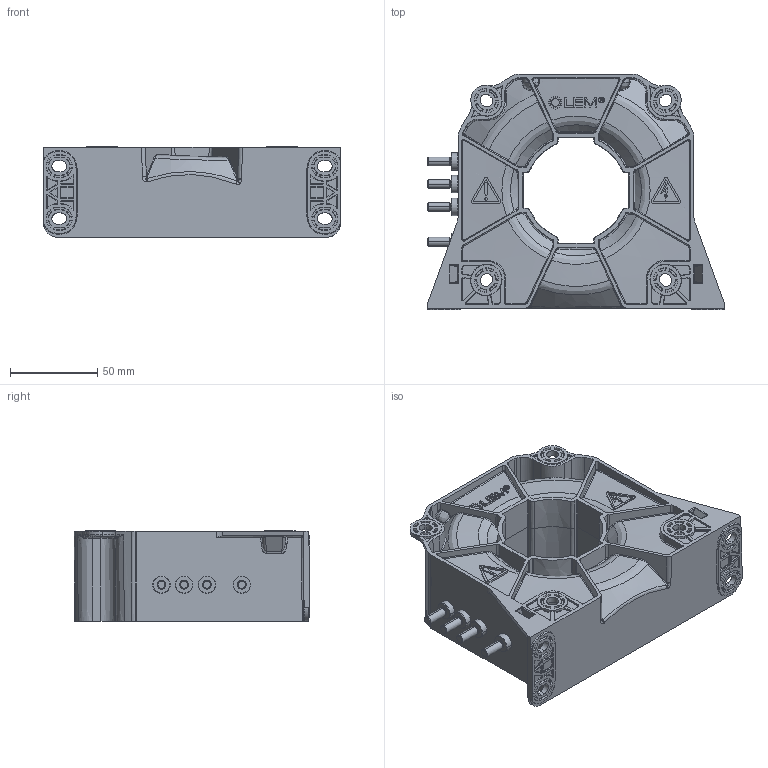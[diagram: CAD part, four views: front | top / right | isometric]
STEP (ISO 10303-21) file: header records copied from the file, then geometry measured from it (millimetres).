
FILE_DESCRIPTION(('Creo Elements/Direct Modeling STEP Export'),'2;1');
FILE_NAME('90.J9.69.028.0_00.stp','2018-03-09T13:44:46',(''),(''),'PTC Creo Elements/Direct Modeling STEP processor for AP214 (Solid Model)','PTC Creo Elements/Direct Modeling 19.0E 27-Jun-2016 (C) Parametric Technology GmbH','');
FILE_SCHEMA(('AUTOMOTIVE_DESIGN { 1 0 10303 214 1 1 1 1 }'));
Products named in the file (4): HOUSING; HALL_ELEMENT.PRT; 90_J9_69_028_0_00_STP.ASM; 90_J9_69_028_00_0
Assembly tree (3 placements, depth 3):
  90_J9_69_028_00_0
    90_J9_69_028_0_00_STP.ASM
      HALL_ELEMENT.PRT
      HOUSING
Bounding box: 170 x 135 x 52 mm (x, y, z)
Volume: 620396.1 mm3; surface area: 91173.5 mm2
Topology: 2 solids, 2 shells, 2897 faces, 7157 edges, 4346 vertices
Faces by surface type: bspline 999, plane 670, cylinder 485, extrusion 276, cone 224, torus 212, sphere 30, revolution 1
Entity records: 205823 total; most frequent: CARTESIAN_POINT 123199, ORIENTED_EDGE 14246, DIRECTION 8755, EDGE_CURVE 7123, VERTEX_POINT 4346, B_SPLINE_CURVE_WITH_KNOTS 3515, AXIS2_PLACEMENT_3D 3032, EDGE_LOOP 3031
